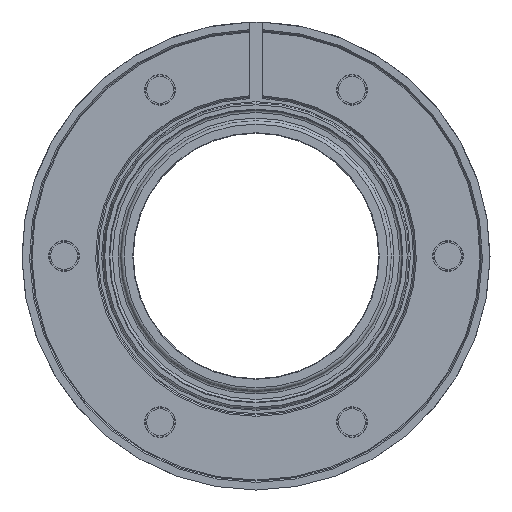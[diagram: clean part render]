
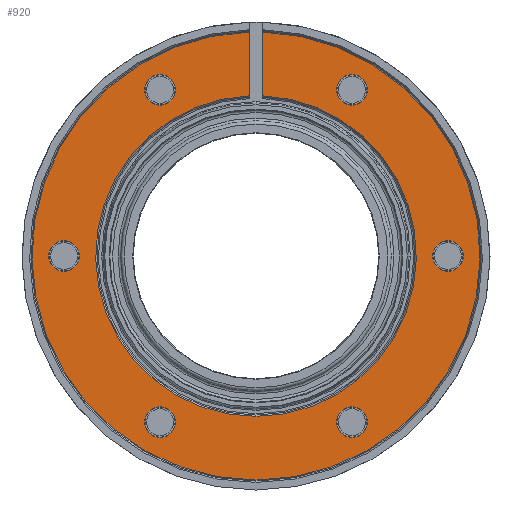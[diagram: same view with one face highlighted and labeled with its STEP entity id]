
A CAD part, front view. The second image highlights one B-rep face of the part: STEP entity #920.
In plain terms, the highlighted planar face has unit normal (0, -1, 0).
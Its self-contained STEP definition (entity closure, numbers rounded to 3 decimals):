
#50=PLANE('',#1013);
#88=LINE('',#1451,#124);
#89=LINE('',#1455,#125);
#124=VECTOR('',#1150,1000.);
#125=VECTOR('',#1153,1000.);
#177=CIRCLE('',#1012,47.625);
#178=CIRCLE('',#1014,66.55);
#179=CIRCLE('',#1015,4.55);
#180=CIRCLE('',#1016,4.55);
#181=CIRCLE('',#1017,4.55);
#182=CIRCLE('',#1018,4.55);
#183=CIRCLE('',#1019,4.55);
#184=CIRCLE('',#1020,4.55);
#240=ORIENTED_EDGE('',*,*,#470,.T.);
#241=ORIENTED_EDGE('',*,*,#471,.T.);
#242=ORIENTED_EDGE('',*,*,#472,.T.);
#243=ORIENTED_EDGE('',*,*,#467,.F.);
#244=ORIENTED_EDGE('',*,*,#473,.T.);
#245=ORIENTED_EDGE('',*,*,#474,.T.);
#246=ORIENTED_EDGE('',*,*,#475,.T.);
#247=ORIENTED_EDGE('',*,*,#476,.T.);
#248=ORIENTED_EDGE('',*,*,#477,.T.);
#249=ORIENTED_EDGE('',*,*,#478,.T.);
#467=EDGE_CURVE('',#582,#583,#177,.T.);
#470=EDGE_CURVE('',#582,#584,#88,.T.);
#471=EDGE_CURVE('',#584,#585,#178,.T.);
#472=EDGE_CURVE('',#585,#583,#89,.T.);
#473=EDGE_CURVE('',#586,#586,#179,.F.);
#474=EDGE_CURVE('',#587,#587,#180,.F.);
#475=EDGE_CURVE('',#588,#588,#181,.F.);
#476=EDGE_CURVE('',#589,#589,#182,.F.);
#477=EDGE_CURVE('',#590,#590,#183,.F.);
#478=EDGE_CURVE('',#591,#591,#184,.F.);
#582=VERTEX_POINT('',#1440);
#583=VERTEX_POINT('',#1441);
#584=VERTEX_POINT('',#1452);
#585=VERTEX_POINT('',#1454);
#586=VERTEX_POINT('',#1457);
#587=VERTEX_POINT('',#1459);
#588=VERTEX_POINT('',#1461);
#589=VERTEX_POINT('',#1463);
#590=VERTEX_POINT('',#1465);
#591=VERTEX_POINT('',#1467);
#693=EDGE_LOOP('',(#240,#241,#242,#243));
#694=EDGE_LOOP('',(#244));
#695=EDGE_LOOP('',(#245));
#696=EDGE_LOOP('',(#246));
#697=EDGE_LOOP('',(#247));
#698=EDGE_LOOP('',(#248));
#699=EDGE_LOOP('',(#249));
#801=FACE_BOUND('',#693,.T.);
#802=FACE_BOUND('',#694,.T.);
#803=FACE_BOUND('',#695,.T.);
#804=FACE_BOUND('',#696,.T.);
#805=FACE_BOUND('',#697,.T.);
#806=FACE_BOUND('',#698,.T.);
#807=FACE_BOUND('',#699,.T.);
#920=ADVANCED_FACE('',(#801,#802,#803,#804,#805,#806,#807),#50,.T.);
#1012=AXIS2_PLACEMENT_3D('',#1439,#1146,#1147);
#1013=AXIS2_PLACEMENT_3D('',#1450,#1148,#1149);
#1014=AXIS2_PLACEMENT_3D('',#1453,#1151,#1152);
#1015=AXIS2_PLACEMENT_3D('',#1456,#1154,#1155);
#1016=AXIS2_PLACEMENT_3D('',#1458,#1156,#1157);
#1017=AXIS2_PLACEMENT_3D('',#1460,#1158,#1159);
#1018=AXIS2_PLACEMENT_3D('',#1462,#1160,#1161);
#1019=AXIS2_PLACEMENT_3D('',#1464,#1162,#1163);
#1020=AXIS2_PLACEMENT_3D('',#1466,#1164,#1165);
#1146=DIRECTION('',(0.,-1.,0.));
#1147=DIRECTION('',(0.,0.,-1.));
#1148=DIRECTION('',(0.,-1.,0.));
#1149=DIRECTION('',(0.,0.,-1.));
#1150=DIRECTION('',(0.,0.,1.));
#1151=DIRECTION('',(0.,-1.,0.));
#1152=DIRECTION('',(0.,0.,-1.));
#1153=DIRECTION('',(0.,0.,-1.));
#1154=DIRECTION('',(0.,-1.,0.));
#1155=DIRECTION('',(0.,0.,-1.));
#1156=DIRECTION('',(0.,-1.,0.));
#1157=DIRECTION('',(0.,0.,-1.));
#1158=DIRECTION('',(0.,-1.,0.));
#1159=DIRECTION('',(0.,0.,-1.));
#1160=DIRECTION('',(0.,-1.,0.));
#1161=DIRECTION('',(0.,0.,-1.));
#1162=DIRECTION('',(0.,-1.,0.));
#1163=DIRECTION('',(0.,0.,-1.));
#1164=DIRECTION('',(0.,-1.,0.));
#1165=DIRECTION('',(0.,0.,-1.));
#1439=CARTESIAN_POINT('',(0.,2.9,0.));
#1440=CARTESIAN_POINT('',(-2.,2.9,47.583));
#1441=CARTESIAN_POINT('',(2.,2.9,47.583));
#1450=CARTESIAN_POINT('',(47.625,2.9,0.));
#1451=CARTESIAN_POINT('',(-2.,2.9,0.));
#1452=CARTESIAN_POINT('',(-2.,2.9,66.52));
#1453=CARTESIAN_POINT('',(0.,2.9,0.));
#1454=CARTESIAN_POINT('',(2.,2.9,66.52));
#1455=CARTESIAN_POINT('',(2.,2.9,0.));
#1456=CARTESIAN_POINT('',(28.5,2.9,49.363));
#1457=CARTESIAN_POINT('',(28.5,2.9,44.813));
#1458=CARTESIAN_POINT('',(57.,2.9,0.));
#1459=CARTESIAN_POINT('',(57.,2.9,-4.55));
#1460=CARTESIAN_POINT('',(28.5,2.9,-49.363));
#1461=CARTESIAN_POINT('',(28.5,2.9,-53.913));
#1462=CARTESIAN_POINT('',(-28.5,2.9,-49.363));
#1463=CARTESIAN_POINT('',(-28.5,2.9,-53.913));
#1464=CARTESIAN_POINT('',(-57.,2.9,0.));
#1465=CARTESIAN_POINT('',(-57.,2.9,-4.55));
#1466=CARTESIAN_POINT('',(-28.5,2.9,49.363));
#1467=CARTESIAN_POINT('',(-28.5,2.9,44.813));
